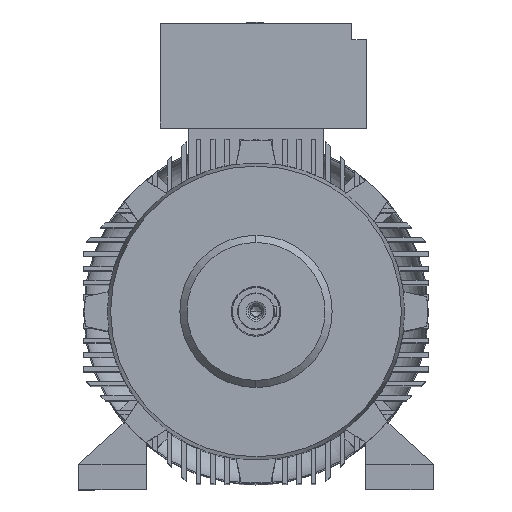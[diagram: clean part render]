
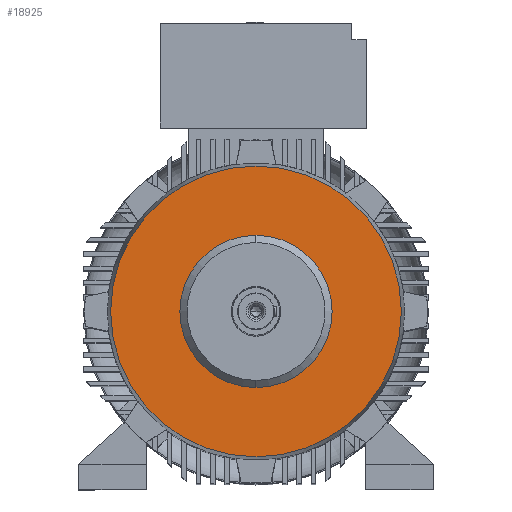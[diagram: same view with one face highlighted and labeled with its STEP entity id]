
A CAD part, top view. The second image highlights one B-rep face of the part: STEP entity #18925.
In plain terms, the highlighted planar face has unit normal (0, 0, 1).
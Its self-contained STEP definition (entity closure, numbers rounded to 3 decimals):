
#1508 = FACE_OUTER_BOUND ( 'NONE', #12477, .T. ) ;
#1520 = DIRECTION ( 'NONE',  ( 0., -1., 0. ) ) ;
#1697 = DIRECTION ( 'NONE',  ( 0., 0., -1. ) ) ;
#1936 = CIRCLE ( 'NONE', #8242, 257.574 ) ;
#3759 = CARTESIAN_POINT ( 'NONE',  ( 0., 0., 455.4 ) ) ;
#4318 = CIRCLE ( 'NONE', #14104, 257.574 ) ;
#4565 = DIRECTION ( 'NONE',  ( 0., 0., -1. ) ) ;
#6882 = CARTESIAN_POINT ( 'NONE',  ( 0., 0., 455.4 ) ) ;
#6964 = DIRECTION ( 'NONE',  ( 0., 0., -1. ) ) ;
#8217 = CARTESIAN_POINT ( 'NONE',  ( -257.574, 0., 455.4 ) ) ;
#8242 = AXIS2_PLACEMENT_3D ( 'NONE', #25600, #15495, #15236 ) ;
#8433 = EDGE_CURVE ( 'NONE', #19799, #25236, #12643, .T. ) ;
#8898 = AXIS2_PLACEMENT_3D ( 'NONE', #12518, #6964, #10941 ) ;
#8938 = DIRECTION ( 'NONE',  ( 0., -1., 0. ) ) ;
#10747 = EDGE_LOOP ( 'NONE', ( #10976, #14016 ) ) ;
#10941 = DIRECTION ( 'NONE',  ( 1., 0., 0. ) ) ;
#10976 = ORIENTED_EDGE ( 'NONE', *, *, #15426, .T. ) ;
#12477 = EDGE_LOOP ( 'NONE', ( #13917, #23559 ) ) ;
#12518 = CARTESIAN_POINT ( 'NONE',  ( 0., 257.574, 455.4 ) ) ;
#12539 = DIRECTION ( 'NONE',  ( 0., -1., 0. ) ) ;
#12643 = CIRCLE ( 'NONE', #19328, 134.8 ) ;
#12837 = CARTESIAN_POINT ( 'NONE',  ( 257.574, 0., 455.4 ) ) ;
#13491 = EDGE_CURVE ( 'NONE', #17906, #25308, #1936, .T. ) ;
#13917 = ORIENTED_EDGE ( 'NONE', *, *, #16560, .T. ) ;
#14016 = ORIENTED_EDGE ( 'NONE', *, *, #8433, .T. ) ;
#14104 = AXIS2_PLACEMENT_3D ( 'NONE', #6882, #18931, #8938 ) ;
#14587 = CARTESIAN_POINT ( 'NONE',  ( 0., 0., 455.4 ) ) ;
#15236 = DIRECTION ( 'NONE',  ( 0., -1., 0. ) ) ;
#15426 = EDGE_CURVE ( 'NONE', #25236, #19799, #21221, .T. ) ;
#15495 = DIRECTION ( 'NONE',  ( 0., 0., 1. ) ) ;
#16560 = EDGE_CURVE ( 'NONE', #25308, #17906, #4318, .T. ) ;
#17906 = VERTEX_POINT ( 'NONE', #8217 ) ;
#18179 = CARTESIAN_POINT ( 'NONE',  ( 0., 134.8, 455.4 ) ) ;
#18392 = FACE_BOUND ( 'NONE', #10747, .T. ) ;
#18925 = ADVANCED_FACE ( 'NONE', ( #1508, #18392 ), #24487, .F. ) ;
#18931 = DIRECTION ( 'NONE',  ( 0., 0., 1. ) ) ;
#19328 = AXIS2_PLACEMENT_3D ( 'NONE', #3759, #1697, #1520 ) ;
#19799 = VERTEX_POINT ( 'NONE', #18179 ) ;
#20310 = CARTESIAN_POINT ( 'NONE',  ( 0., -134.8, 455.4 ) ) ;
#20861 = AXIS2_PLACEMENT_3D ( 'NONE', #14587, #4565, #12539 ) ;
#21221 = CIRCLE ( 'NONE', #20861, 134.8 ) ;
#23559 = ORIENTED_EDGE ( 'NONE', *, *, #13491, .T. ) ;
#24487 = PLANE ( 'NONE',  #8898 ) ;
#25236 = VERTEX_POINT ( 'NONE', #20310 ) ;
#25308 = VERTEX_POINT ( 'NONE', #12837 ) ;
#25600 = CARTESIAN_POINT ( 'NONE',  ( 0., 0., 455.4 ) ) ;
